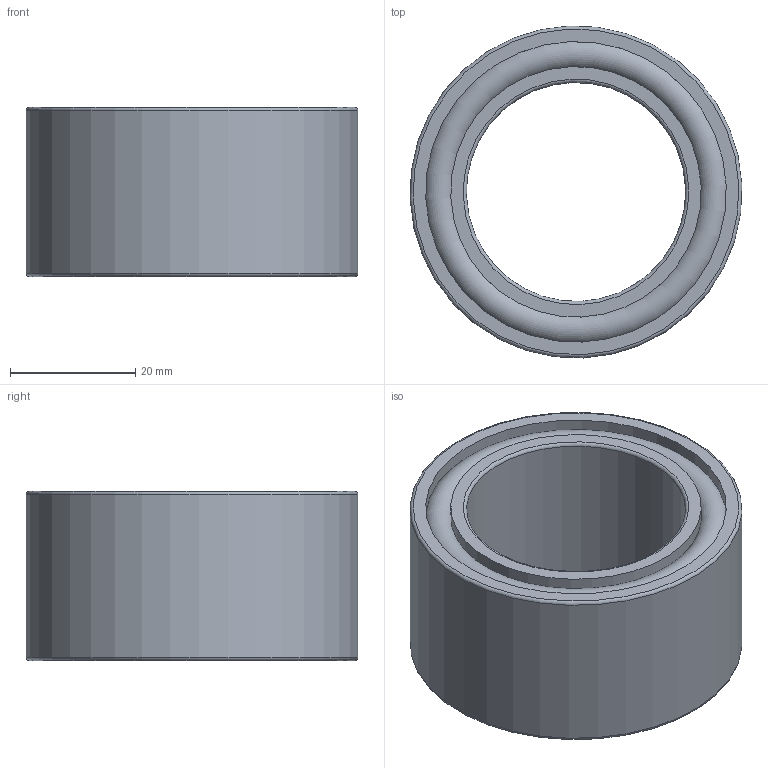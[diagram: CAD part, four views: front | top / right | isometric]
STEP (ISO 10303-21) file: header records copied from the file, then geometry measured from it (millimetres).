
FILE_DESCRIPTION(/* description */ (''),/* implementation_level */ '2;1');
FILE_NAME(/* name */ '306523 FP 448 Z.stp',/* time_stamp */ '2016-11-17T14:11:05+01:00',/* author */ (''),/* organization */ (''),/* preprocessor_version */ 'ST-DEVELOPER v15',/* originating_system */ 'SIEMENS PLM Software NX 8.5',/* authorisation */ '');
FILE_SCHEMA (('CONFIG_CONTROL_DESIGN'));
Length unit declared in the file: millimetre
Products named in the file (3): ATE0000080_01; ATE0000093_01; ATE0000095_01
Assembly tree (2 placements, depth 2):
  ATE0000095_01
    ATE0000093_01
    ATE0000080_01
Bounding box: 52.95 x 52.95 x 27 mm (x, y, z)
Volume: 26586.3 mm3; surface area: 24028.3 mm2
Topology: 3 solids, 3 shells, 72 faces, 157 edges, 103 vertices
Faces by surface type: plane 44, cylinder 22, torus 6
Full cylindrical faces by diameter (mm): 35 x1, 40 x3, 44 x1, 45 x1, 46 x1, 47 x2, 48 x4, 53 x1
Entity records: 2128 total; most frequent: DIRECTION 342, CARTESIAN_POINT 299, ORIENTED_EDGE 256, AXIS2_PLACEMENT_3D 139, EDGE_CURVE 128, EDGE_LOOP 112, VERTEX_POINT 96, ADVANCED_FACE 72
